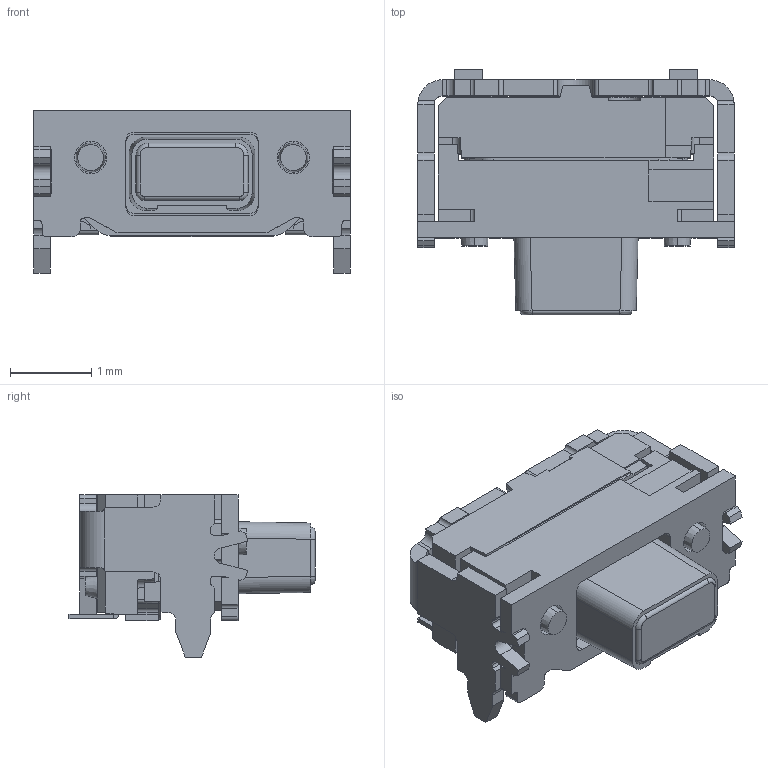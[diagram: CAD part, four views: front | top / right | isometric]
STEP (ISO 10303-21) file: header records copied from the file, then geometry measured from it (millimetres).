
FILE_DESCRIPTION(('Open CASCADE Model'),'2;1');
FILE_NAME('Open CASCADE Shape Model','2026-09-17T12:32:11',('Author'),( 'Open CASCADE'),'Open CASCADE STEP processor 7.8','Open CASCADE 7.8' ,'Unknown');
FILE_SCHEMA(('AUTOMOTIVE_DESIGN { 1 0 10303 214 1 1 1 1 }'));
Length unit declared in the file: millimetre
Products named in the file (1): Open CASCADE STEP translator 7.8 1
Bounding box: 3.9 x 3.04 x 2 mm (x, y, z)
Volume: 10.8 mm3; surface area: 64.4 mm2
Topology: 1 solids, 1 shells, 428 faces, 1233 edges, 812 vertices
Faces by surface type: plane 290, cylinder 122, cone 10, bspline 4, revolution 2
Entity records: 32034 total; most frequent: CARTESIAN_POINT 7790, DIRECTION 4493, LINE 3047, VECTOR 3047, ORIENTED_EDGE 2466, PCURVE 2466, DEFINITIONAL_REPRESENTATION 2466, EDGE_CURVE 1233
